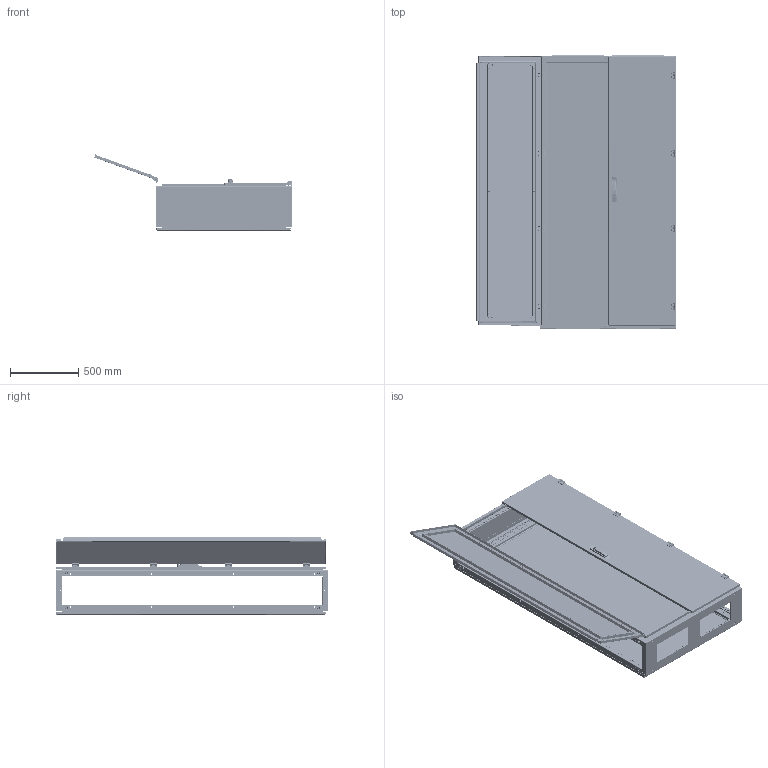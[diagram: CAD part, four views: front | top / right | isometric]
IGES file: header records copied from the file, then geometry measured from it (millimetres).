
Start section: SolidWorks IGES file using analytic representation for surfaces
Global section: file name: U:\14_RD\05_Technical_office\04_Office\Hrdinova\3D modely - IGES\Distri\QA201003.IGS; native system: SolidWorks 2011; preprocessor: SolidWorks 2011; author: adhrja3; date: 170613.081226; units: millimetre
Bounding box: 1468.78 x 2004.5 x 566.2 mm (x, y, z)
Surface area: 15548390.6 mm2 (no closed solid volume)
Topology: 0 solids, 0 shells, 8716 faces, 149206 edges, 148924 vertices
Faces by surface type: bspline 4570, revolution 4146
